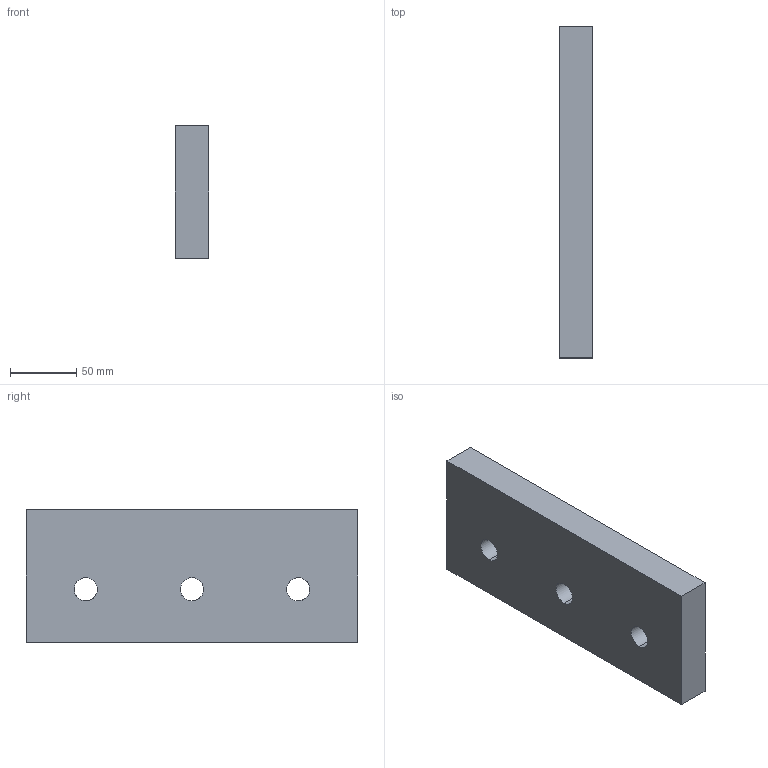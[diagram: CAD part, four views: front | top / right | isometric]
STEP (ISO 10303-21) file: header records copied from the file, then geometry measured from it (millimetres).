
FILE_DESCRIPTION(('CATIA V5 STEP Exchange'),'2;1');
FILE_NAME('C:\Users\Raffaele\Desktop\3D X SITO CF\A612\A611-100-250\A612-100-250.stp','2019-07-12T12:46:42+00:00',('none'),('none'),'CATIA Version 5 Release 20 GA (IN-10)','CATIA V5 STEP AP203','none');
FILE_SCHEMA(('CONFIG_CONTROL_DESIGN'));
Length unit declared in the file: millimetre
Products named in the file (1): A612-100-250
Bounding box: 25 x 250 x 100 mm (x, y, z)
Volume: 606960.4 mm3; surface area: 70180.2 mm2
Topology: 1 solids, 1 shells, 12 faces, 42 edges, 32 vertices
Faces by surface type: plane 6, cylinder 6
Entity records: 660 total; most frequent: CARTESIAN_POINT 255, ORIENTED_EDGE 84, DIRECTION 54, EDGE_CURVE 42, VERTEX_POINT 32, AXIS2_PLACEMENT_3D 25, VECTOR 18, EDGE_LOOP 18
